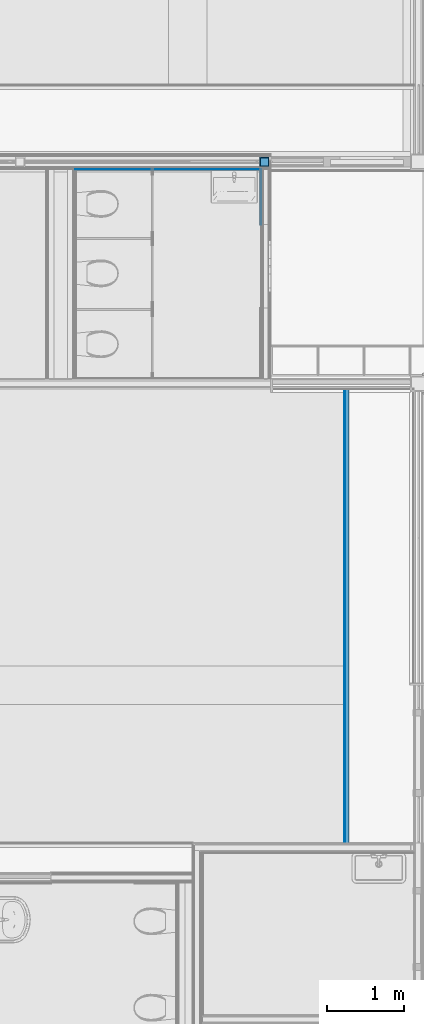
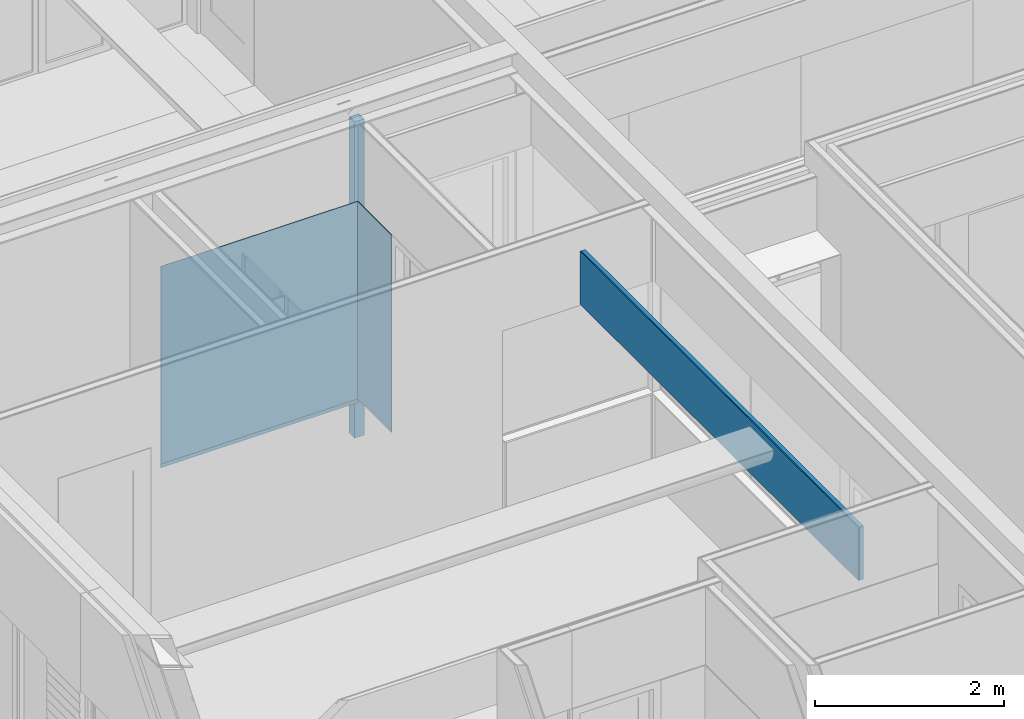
# One storey, part 79 of 165: 7 building element parts, 4 elements without a shape of their own.
"""IFC2X3 building model written with IfcOpenShell, lengths in millimetres."""

from ifc_helpers import new_model, entity, si_unit, converted_unit, derived_unit, money_unit, direction, frame, origin_with_axes, place, context, subcontext, project, spatial, faceted_brep, material, type_object, element, aggregate, save


model = new_model("IFC2X3")

# Units and contexts
model_context = context("Model", 3, precision=0.01, world=origin_with_axes(), true_north=direction((0.0, 1.0)))
body_context = subcontext(model_context, "Body", "Model", "MODEL_VIEW")
ifc_project = project(units=[si_unit("LENGTHUNIT", "METRE", prefix="MILLI"), si_unit("AREAUNIT", "SQUARE_METRE"), si_unit("VOLUMEUNIT", "CUBIC_METRE"), converted_unit("PLANEANGLEUNIT", "DEGREE", entity("IfcPlaneAngleMeasure", 0.0174532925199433), si_unit("PLANEANGLEUNIT", "RADIAN"), dimensions=[0, 0, 0, 0, 0, 0, 0]), money_unit("EUR"), converted_unit("TIMEUNIT", "Year", entity("IfcTimeMeasure", 31556926.0), si_unit("TIMEUNIT", "SECOND"), dimensions=[0, 0, 1, 0, 0, 0, 0]), si_unit("MASSUNIT", "GRAM", prefix="KILO"), si_unit("THERMODYNAMICTEMPERATUREUNIT", "DEGREE_CELSIUS"), si_unit("LUMINOUSINTENSITYUNIT", "LUMEN"), si_unit("ENERGYUNIT", "JOULE", prefix="MEGA"), derived_unit("THERMALCONDUCTANCEUNIT", [(si_unit("POWERUNIT", "WATT"), 1), (si_unit("LENGTHUNIT", "METRE"), -1), (si_unit("THERMODYNAMICTEMPERATUREUNIT", "KELVIN"), -1)]), derived_unit("SPECIFICHEATCAPACITYUNIT", [(si_unit("ENERGYUNIT", "JOULE"), 1), (si_unit("MASSUNIT", "GRAM", prefix="KILO"), -1), (si_unit("THERMODYNAMICTEMPERATUREUNIT", "KELVIN"), -1)]), derived_unit("MASSDENSITYUNIT", [(si_unit("MASSUNIT", "GRAM", prefix="KILO"), 1), (si_unit("VOLUMEUNIT", "CUBIC_METRE"), -1)])], contexts=[model_context])

# Site, building, storey
site_placement = place(None, origin_with_axes())
site = spatial("IfcSite", under=ifc_project, at=site_placement, Name="Site", CompositionType="ELEMENT")
building_placement = place(site_placement, origin_with_axes())
building = spatial("IfcBuilding", under=site, at=building_placement, Name="Naam gebouw", CompositionType="ELEMENT")
storey_placement = place(building_placement, origin_with_axes())
storey = spatial("IfcBuildingStorey", under=building, at=storey_placement, Name="Begane grond", CompositionType="ELEMENT", Elevation=0.0)

# Proxy, building element parts
building_element_proxy_type_1 = type_object("IfcBuildingElementProxyType", Name="22 Metal stud 62.5 plafond 63", PredefinedType="NOTDEFINED")
proxy_1_placement = place(storey_placement, frame((7887.500000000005, 13505.0000374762, 2600.0), z_axis=(0.0, 0.0, 1.0), x_axis=(0.0, 1.0, 0.0)))
proxy_1 = element("IfcBuildingElementProxy", 1, at=proxy_1_placement, inside=storey, type_object=building_element_proxy_type_1, Name="_Wand-x")
ifc_material_1 = material(Name="Gipsplaat")
building_element_part_1_placement = place(proxy_1_placement, origin_with_axes())
building_element_part_1 = element("IfcBuildingElementPart", 2, at=building_element_part_1_placement, material=ifc_material_1, Name="Gipsplaat", context=body_context, shape_type="Brep", body=[
    faceted_brep([(7.352087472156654e-05, -12.50000000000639, 12.00000000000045), (5882.499773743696, -12.50000000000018, 12.00000000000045), (5882.499773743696, -12.50000000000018, 700.0000000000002), (0.0, -12.50000000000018, 700.0000000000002), (5882.499773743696, 0.0, 12.00000000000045), (7.455638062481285e-05, 0.0, 12.00000000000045), (5882.499773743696, 0.0, 700.0000000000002), (0.0, 0.0, 700.0000000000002)], [[[0, 1, 2, 3]], [[4, 1, 0, 5]], [[1, 4, 6, 2]], [[3, 2, 6, 7]], [[5, 0, 3, 7]], [[4, 5, 7, 6]]]),
])
ifc_material_2 = material(Name="ALG - LICHTE SCHEIDINGSWAND")
building_element_part_2_placement = place(proxy_1_placement, origin_with_axes())
building_element_part_2 = element("IfcBuildingElementPart", 3, at=building_element_part_2_placement, material=ifc_material_2, Name="ALG - LICHTE SCHEIDINGSWAND", context=body_context, shape_type="Brep", body=[
    faceted_brep([(6.937885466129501e-05, -62.50000000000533, 12.00000000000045), (5882.499773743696, -62.5, 12.00000000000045), (5882.499773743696, -62.5, 700.0000000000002), (0.0, -62.5, 700.0000000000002), (5882.499773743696, -12.50000000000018, 12.00000000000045), (7.352087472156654e-05, -12.50000000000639, 12.00000000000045), (5882.499773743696, -12.50000000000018, 700.0000000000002), (0.0, -12.50000000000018, 700.0000000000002)], [[[0, 1, 2, 3]], [[4, 1, 0, 5]], [[1, 4, 6, 2]], [[3, 2, 6, 7]], [[5, 0, 3, 7]], [[4, 5, 7, 6]]]),
])
aggregate(proxy_1, [building_element_part_1, building_element_part_2])

# Column, building element parts
column_type = type_object("IfcColumnType", Name="120X120X8 120 x 120", PredefinedType="COLUMN")
column_placement = place(storey_placement, frame((6855.0, 22324.97621406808, -480.0), z_axis=(0.0, 0.0, 1.0), x_axis=(1.0, 0.0, 0.0)))
column = element("IfcColumn", 4, at=column_placement, inside=storey, type_object=column_type, Name="28_Kolom-x", ObjectType="COLUMN")
ifc_material_3 = material(Name="Metaal - Staal C")
building_element_part_3_placement = place(column_placement, origin_with_axes())
building_element_part_3 = element("IfcBuildingElementPart", 5, at=building_element_part_3_placement, material=ifc_material_3, Name="Metaal - Staal C", context=body_context, shape_type="Brep", body=[
    faceted_brep([(-59.99999999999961, 59.99999999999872, 0.0), (-59.99999999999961, -59.99999999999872, 0.0), (-59.99999999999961, -59.99999999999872, 4079.999999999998), (-59.99999999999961, 59.99999999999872, 4079.999999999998), (59.99999999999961, 59.99999999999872, 0.0), (59.99999999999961, -59.99999999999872, 0.0), (-51.9999999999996, -51.9999999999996, 0.0), (51.9999999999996, -51.9999999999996, 0.0), (51.9999999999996, 51.9999999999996, 0.0), (-51.9999999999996, 51.9999999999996, 0.0), (59.99999999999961, -59.99999999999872, 4079.999999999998), (59.99999999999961, 59.99999999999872, 4079.999999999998), (-51.9999999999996, -51.9999999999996, 4079.999999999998), (-51.9999999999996, 51.9999999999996, 4079.999999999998), (51.9999999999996, 51.9999999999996, 4079.999999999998), (51.9999999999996, -51.9999999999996, 4079.999999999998)], [[[0, 1, 2, 3]], [[0, 4, 5, 1], [6, 7, 8, 9]], [[1, 5, 10, 2]], [[3, 2, 10, 11], [12, 13, 14, 15]], [[4, 0, 3, 11]], [[5, 4, 11, 10]], [[7, 6, 12, 15]], [[8, 7, 15, 14]], [[9, 8, 14, 13]], [[6, 9, 13, 12]]]),
])
ifc_material_4 = material(Name="Lucht kolommen")
building_element_part_4_placement = place(column_placement, origin_with_axes())
building_element_part_4 = element("IfcBuildingElementPart", 6, at=building_element_part_4_placement, material=ifc_material_4, Name="Lucht kolommen", context=body_context, shape_type="Brep", body=[
    faceted_brep([(51.9999999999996, -51.9999999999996, 0.0), (51.9999999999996, 51.9999999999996, 0.0), (51.9999999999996, 51.9999999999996, 4079.999999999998), (51.9999999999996, -51.9999999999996, 4079.999999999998), (-51.9999999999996, -51.9999999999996, 0.0), (-51.9999999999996, 51.9999999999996, 0.0), (-51.9999999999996, 51.9999999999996, 4079.999999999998), (-51.9999999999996, -51.9999999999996, 4079.999999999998)], [[[0, 1, 2, 3]], [[0, 4, 5, 1]], [[1, 5, 6, 2]], [[3, 2, 6, 7]], [[4, 0, 3, 7]], [[5, 4, 7, 6]]]),
])
aggregate(column, [building_element_part_3, building_element_part_4])

# Proxy, building element part
building_element_proxy_type_2 = type_object("IfcBuildingElementProxyType", Name="42 Tegelwerk 2600+ 12 x 2600", PredefinedType="NOTDEFINED")
proxy_2_placement = place(storey_placement, frame((6795.000065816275, 21509.97621853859, 0.0), z_axis=(0.0, 0.0, 1.0), x_axis=(0.0, 1.0, 0.0)))
proxy_2 = element("IfcBuildingElementProxy", 7, at=proxy_2_placement, inside=storey, type_object=building_element_proxy_type_2, Name="_Wand-x")
ifc_material_5 = material(Name="21 STO lijmlaag")
building_element_part_5_placement = place(proxy_2_placement, origin_with_axes())
building_element_part_5 = element("IfcBuildingElementPart", 8, at=building_element_part_5_placement, material=ifc_material_5, Name="21 STO lijmlaag", context=body_context, shape_type="Brep", body=[
    faceted_brep([(720.0181890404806, -19.99999552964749, 50.00000596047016), (720.0181890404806, -19.99999552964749, 2600.0), (0.0, -19.99999552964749, 2600.0), (0.0, -19.99999552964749, 50.00000000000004), (720.0181703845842, -13.00000447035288, 2600.0), (720.0181757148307, -14.99999850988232, 50.00000596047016), (720.0181703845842, -13.00000447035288, 50.00000596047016), (0.0, -13.00000447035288, 2600.0), (0.0, -13.00000447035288, 50.00000000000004), (0.0, -14.99999850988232, 50.00000596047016)], [[[0, 1, 2, 3]], [[4, 1, 0, 5, 6]], [[1, 4, 7, 2]], [[7, 8, 9, 3, 2]], [[5, 0, 3, 9]], [[6, 5, 9, 8]], [[4, 6, 8, 7]]]),
])
aggregate(proxy_2, [building_element_part_5])

# Proxy, building element parts
proxy_3_placement = place(storey_placement, frame((6795.000065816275, 22209.9943468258, 0.0), z_axis=(0.0, 0.0, 1.0), x_axis=(-0.9999999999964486, -2.665131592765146e-06, 0.0)))
proxy_3 = element("IfcBuildingElementProxy", 9, at=proxy_3_placement, inside=storey, type_object=building_element_proxy_type_2, Name="_Wand-x")
ifc_material_6 = material(Name="48 vloeivloer Bolidt")
building_element_part_6_placement = place(proxy_3_placement, origin_with_axes())
building_element_part_6 = element("IfcBuildingElementPart", 10, at=building_element_part_6_placement, material=ifc_material_6, Name="48 vloeivloer Bolidt", context=body_context, shape_type="Brep", body=[
    faceted_brep([(-15.00003848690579, -14.99999850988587, 50.00000596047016), (-15.00005181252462, -19.99998360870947, 50.00000596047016), (2390.000019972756, -19.99998360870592, 50.00000596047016), (2390.000033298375, -14.99999850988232, 50.00000596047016), (-15.00005181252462, -19.99998360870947, 0.0), (-15.00003848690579, -14.99999850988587, 0.0), (2390.000019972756, -19.99998360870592, 0.0), (2390.000033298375, -14.99999850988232, 0.0)], [[[0, 1, 2, 3]], [[4, 1, 0, 5]], [[1, 4, 6, 2]], [[3, 2, 6, 7]], [[5, 0, 3, 7]], [[4, 5, 7, 6]]]),
])
building_element_part_7_placement = place(proxy_3_placement, origin_with_axes())
building_element_part_7 = element("IfcBuildingElementPart", 11, at=building_element_part_7_placement, material=ifc_material_5, Name="21 STO lijmlaag", context=body_context, shape_type="Brep", body=[
    faceted_brep([(-13.00003911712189, -13.00000447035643, 2600.0), (-13.00005777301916, -19.99999552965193, 2600.0), (2390.000019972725, -19.99999552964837, 2600.0), (2390.000038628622, -13.00000447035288, 2600.0), (-13.00005777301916, -19.99999552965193, 50.00000000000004), (-13.00003911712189, -13.00000447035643, 50.00000000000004), (-13.00004444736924, -14.99999850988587, 50.00000000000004), (2390.000019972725, -19.99999552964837, 50.00000596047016), (2390.000038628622, -13.00000447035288, 50.00000596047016), (2390.000033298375, -14.99999850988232, 50.00000596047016)], [[[0, 1, 2, 3]], [[4, 1, 0, 5, 6]], [[1, 4, 7, 2]], [[8, 3, 2, 7, 9]], [[5, 0, 3, 8]], [[6, 5, 8, 9]], [[4, 6, 9, 7]]]),
])
aggregate(proxy_3, [building_element_part_6, building_element_part_7])

save(model, "model.ifc")
